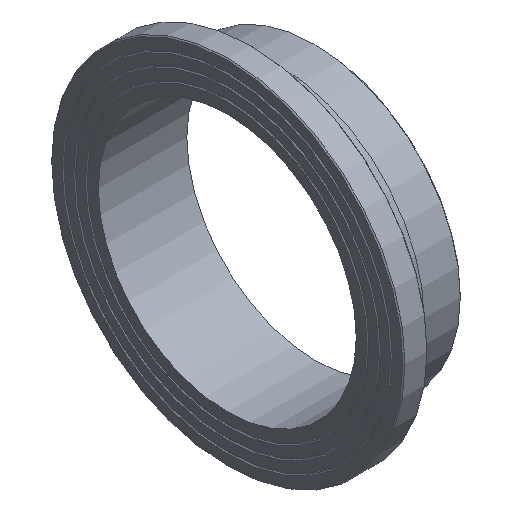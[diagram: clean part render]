
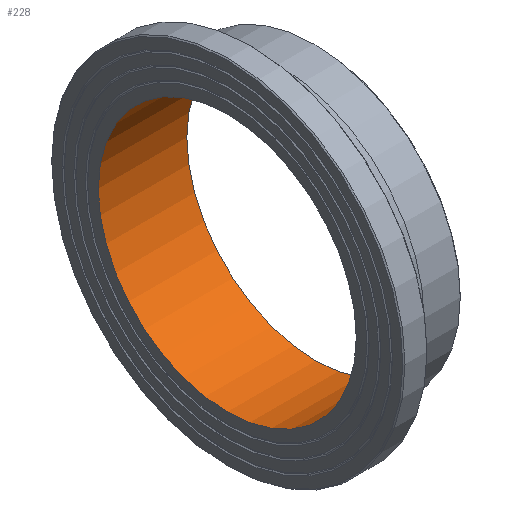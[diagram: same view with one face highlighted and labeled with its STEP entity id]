
A CAD part, isometric view. The second image highlights one B-rep face of the part: STEP entity #228.
In plain terms, the highlighted cylindrical face has radius 176.3 mm (diameter 352.6 mm), a full revolution.
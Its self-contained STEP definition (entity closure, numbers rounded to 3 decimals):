
#33=CYLINDRICAL_SURFACE('',#274,176.3);
#50=ORIENTED_EDGE('',*,*,#79,.F.);
#51=ORIENTED_EDGE('',*,*,#76,.T.);
#76=EDGE_CURVE('',#96,#96,#116,.T.);
#79=EDGE_CURVE('',#99,#99,#119,.T.);
#96=VERTEX_POINT('',#383);
#99=VERTEX_POINT('',#390);
#116=CIRCLE('',#257,176.3);
#119=CIRCLE('',#261,176.3);
#150=EDGE_LOOP('',(#50));
#151=EDGE_LOOP('',(#51));
#190=FACE_BOUND('',#150,.T.);
#191=FACE_BOUND('',#151,.T.);
#228=ADVANCED_FACE('',(#190,#191),#33,.F.);
#257=AXIS2_PLACEMENT_3D('',#382,#303,#304);
#261=AXIS2_PLACEMENT_3D('',#389,#311,#312);
#274=AXIS2_PLACEMENT_3D('',#410,#337,#338);
#303=DIRECTION('',(-1.,0.,0.));
#304=DIRECTION('',(0.,0.,1.));
#311=DIRECTION('',(-1.,0.,0.));
#312=DIRECTION('',(0.,0.,1.));
#337=DIRECTION('',(-1.,0.,0.));
#338=DIRECTION('',(0.,0.,1.));
#382=CARTESIAN_POINT('',(0.,0.,0.));
#383=CARTESIAN_POINT('',(0.,0.,176.3));
#389=CARTESIAN_POINT('',(121.,0.,0.));
#390=CARTESIAN_POINT('',(121.,0.,176.3));
#410=CARTESIAN_POINT('',(60.,0.,0.));
